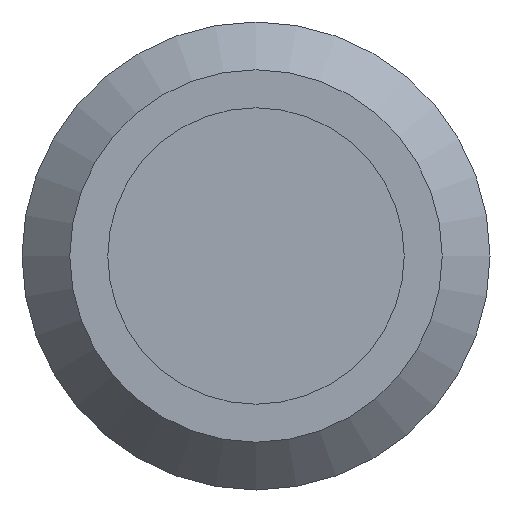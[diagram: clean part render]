
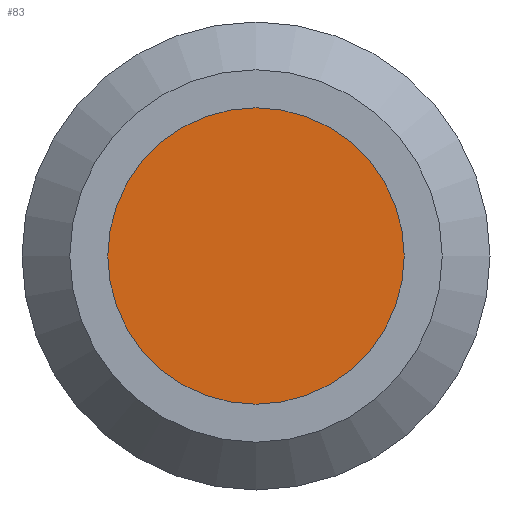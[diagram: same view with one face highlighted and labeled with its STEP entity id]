
A CAD part, front view. The second image highlights one B-rep face of the part: STEP entity #83.
In plain terms, the highlighted planar face has unit normal (0, -1, 0).
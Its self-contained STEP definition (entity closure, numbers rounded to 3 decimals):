
#83 = ADVANCED_FACE( '', ( #107 ), #108, .F. );
#107 = FACE_OUTER_BOUND( '', #141, .T. );
#108 = PLANE( '', #142 );
#141 = EDGE_LOOP( '', ( #219 ) );
#142 = AXIS2_PLACEMENT_3D( '', #220, #221, #222 );
#219 = ORIENTED_EDGE( '', *, *, #267, .T. );
#220 = CARTESIAN_POINT( '', ( 0.95, 0., 0. ) );
#221 = DIRECTION( '', ( 0., 1., 0. ) );
#222 = DIRECTION( '', ( 0., 0., 1. ) );
#267 = EDGE_CURVE( '', #304, #304, #305, .T. );
#304 = VERTEX_POINT( '', #364 );
#305 = CIRCLE( '', #365, 0.95 );
#364 = CARTESIAN_POINT( '', ( 0., 0., -0.95 ) );
#365 = AXIS2_PLACEMENT_3D( '', #395, #396, #397 );
#395 = CARTESIAN_POINT( '', ( 0., 0., 0. ) );
#396 = DIRECTION( '', ( 0., -1., 0. ) );
#397 = DIRECTION( '', ( 0., 0., -1. ) );
